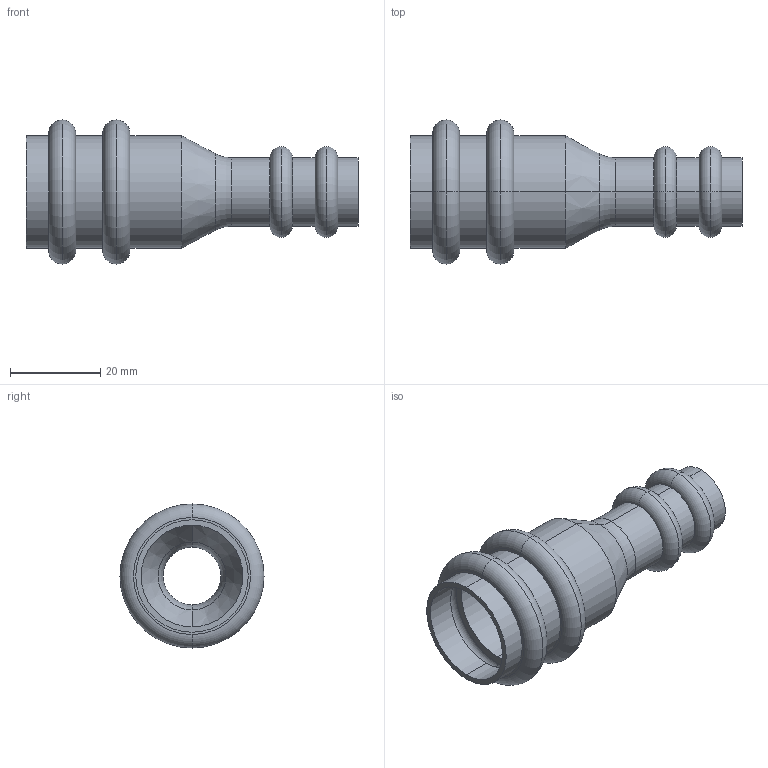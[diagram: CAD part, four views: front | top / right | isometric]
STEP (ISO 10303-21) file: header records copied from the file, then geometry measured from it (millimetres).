
FILE_DESCRIPTION(('starvars output'),'1');
FILE_NAME('cv20240422105324000011981.stp','10:53:27 2024/04/22',('Thomas Industrial Network Germany GmbH'),(' '),'Spatial InterOp 3D',' ',' ');
FILE_SCHEMA(('AUTOMOTIVE_DESIGN { 1 0 10303 214 3 1 1 }'));
Length unit declared in the file: millimetre
Products named in the file (1): 1
Bounding box: 73.5 x 31.9 x 31.9 mm (x, y, z)
Volume: 7173.6 mm3; surface area: 11902.1 mm2
Topology: 1 solids, 1 shells, 80 faces, 160 edges, 96 vertices
Faces by surface type: torus 36, cylinder 24, plane 16, cone 4
Entity records: 2788 total; most frequent: DIRECTION 454, CARTESIAN_POINT 337, ORIENTED_EDGE 320, AXIS2_PLACEMENT_3D 213, EDGE_CURVE 160, CIRCLE 132, EDGE_LOOP 96, VERTEX_POINT 96
